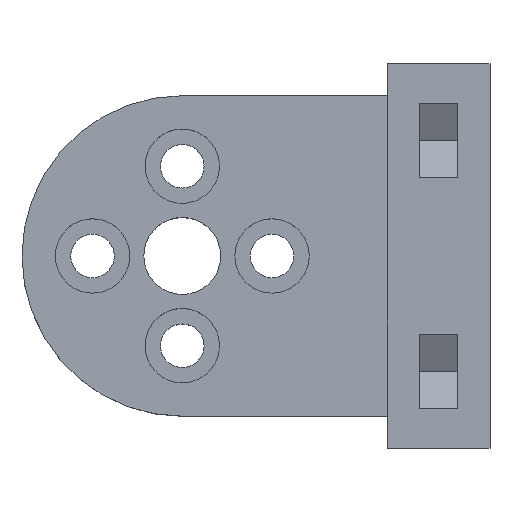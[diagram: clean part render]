
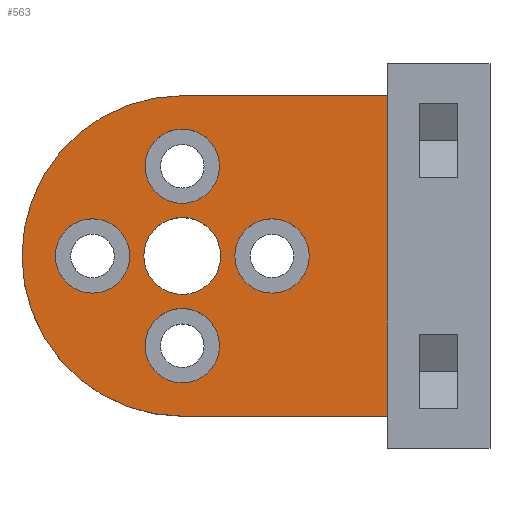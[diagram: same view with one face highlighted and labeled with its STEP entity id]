
A CAD part, top view. The second image highlights one B-rep face of the part: STEP entity #563.
In plain terms, the highlighted planar face has unit normal (0, 0, 1).
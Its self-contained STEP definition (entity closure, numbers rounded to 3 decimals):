
#62 = PLANE('',#63);
#63 = AXIS2_PLACEMENT_3D('',#64,#65,#66);
#64 = CARTESIAN_POINT('',(0.,12.5,0.));
#65 = DIRECTION('',(-0.,1.,0.));
#66 = DIRECTION('',(0.,0.,1.));
#91 = CYLINDRICAL_SURFACE('',#92,12.5);
#92 = AXIS2_PLACEMENT_3D('',#93,#94,#95);
#93 = CARTESIAN_POINT('',(0.,0.,0.));
#94 = DIRECTION('',(0.,0.,1.));
#95 = DIRECTION('',(1.,0.,-0.));
#119 = PLANE('',#120);
#120 = AXIS2_PLACEMENT_3D('',#121,#122,#123);
#121 = CARTESIAN_POINT('',(0.,-12.5,0.));
#122 = DIRECTION('',(-0.,1.,0.));
#123 = DIRECTION('',(0.,0.,1.));
#147 = PLANE('',#148);
#148 = AXIS2_PLACEMENT_3D('',#149,#150,#151);
#149 = CARTESIAN_POINT('',(16.,-15.,0.));
#150 = DIRECTION('',(1.,0.,-0.));
#151 = DIRECTION('',(0.,0.,1.));
#345 = CYLINDRICAL_SURFACE('',#346,3.);
#346 = AXIS2_PLACEMENT_3D('',#347,#348,#349);
#347 = CARTESIAN_POINT('',(0.,0.,-0.4));
#348 = DIRECTION('',(0.,0.,1.));
#349 = DIRECTION('',(1.,0.,-0.));
#494 = CYLINDRICAL_SURFACE('',#495,2.9);
#495 = AXIS2_PLACEMENT_3D('',#496,#497,#498);
#496 = CARTESIAN_POINT('',(0.,7.,4.));
#497 = DIRECTION('',(0.,0.,1.));
#498 = DIRECTION('',(1.,0.,-0.));
#512 = EDGE_CURVE('',#513,#513,#515,.T.);
#513 = VERTEX_POINT('',#514);
#514 = CARTESIAN_POINT('',(2.9,7.,7.));
#515 = SURFACE_CURVE('',#516,(#521,#528),.PCURVE_S1.);
#516 = CIRCLE('',#517,2.9);
#517 = AXIS2_PLACEMENT_3D('',#518,#519,#520);
#518 = CARTESIAN_POINT('',(0.,7.,7.));
#519 = DIRECTION('',(0.,0.,1.));
#520 = DIRECTION('',(1.,0.,-0.));
#521 = PCURVE('',#494,#522);
#522 = DEFINITIONAL_REPRESENTATION('',(#523),#527);
#523 = LINE('',#524,#525);
#524 = CARTESIAN_POINT('',(0.,3.));
#525 = VECTOR('',#526,1.);
#526 = DIRECTION('',(1.,0.));
#527 = ( GEOMETRIC_REPRESENTATION_CONTEXT(2) 
PARAMETRIC_REPRESENTATION_CONTEXT() REPRESENTATION_CONTEXT('2D SPACE',''
  ) );
#528 = PCURVE('',#529,#534);
#529 = PLANE('',#530);
#530 = AXIS2_PLACEMENT_3D('',#531,#532,#533);
#531 = CARTESIAN_POINT('',(0.,-12.5,7.));
#532 = DIRECTION('',(0.,0.,1.));
#533 = DIRECTION('',(1.,0.,-0.));
#534 = DEFINITIONAL_REPRESENTATION('',(#535),#539);
#535 = CIRCLE('',#536,2.9);
#536 = AXIS2_PLACEMENT_2D('',#537,#538);
#537 = CARTESIAN_POINT('',(0.,19.5));
#538 = DIRECTION('',(1.,0.));
#539 = ( GEOMETRIC_REPRESENTATION_CONTEXT(2) 
PARAMETRIC_REPRESENTATION_CONTEXT() REPRESENTATION_CONTEXT('2D SPACE',''
  ) );
#563 = ADVANCED_FACE('',(#564,#658,#689,#720,#746,#777),#529,.T.);
#564 = FACE_BOUND('',#565,.T.);
#565 = EDGE_LOOP('',(#566,#591,#615,#638));
#566 = ORIENTED_EDGE('',*,*,#567,.F.);
#567 = EDGE_CURVE('',#568,#570,#572,.T.);
#568 = VERTEX_POINT('',#569);
#569 = CARTESIAN_POINT('',(0.,12.5,7.));
#570 = VERTEX_POINT('',#571);
#571 = CARTESIAN_POINT('',(16.,12.5,7.));
#572 = SURFACE_CURVE('',#573,(#577,#584),.PCURVE_S1.);
#573 = LINE('',#574,#575);
#574 = CARTESIAN_POINT('',(0.,12.5,7.));
#575 = VECTOR('',#576,1.);
#576 = DIRECTION('',(1.,0.,-0.));
#577 = PCURVE('',#529,#578);
#578 = DEFINITIONAL_REPRESENTATION('',(#579),#583);
#579 = LINE('',#580,#581);
#580 = CARTESIAN_POINT('',(0.,25.));
#581 = VECTOR('',#582,1.);
#582 = DIRECTION('',(1.,0.));
#583 = ( GEOMETRIC_REPRESENTATION_CONTEXT(2) 
PARAMETRIC_REPRESENTATION_CONTEXT() REPRESENTATION_CONTEXT('2D SPACE',''
  ) );
#584 = PCURVE('',#62,#585);
#585 = DEFINITIONAL_REPRESENTATION('',(#586),#590);
#586 = LINE('',#587,#588);
#587 = CARTESIAN_POINT('',(7.,0.));
#588 = VECTOR('',#589,1.);
#589 = DIRECTION('',(0.,1.));
#590 = ( GEOMETRIC_REPRESENTATION_CONTEXT(2) 
PARAMETRIC_REPRESENTATION_CONTEXT() REPRESENTATION_CONTEXT('2D SPACE',''
  ) );
#591 = ORIENTED_EDGE('',*,*,#592,.T.);
#592 = EDGE_CURVE('',#568,#593,#595,.T.);
#593 = VERTEX_POINT('',#594);
#594 = CARTESIAN_POINT('',(0.,-12.5,7.));
#595 = SURFACE_CURVE('',#596,(#601,#608),.PCURVE_S1.);
#596 = CIRCLE('',#597,12.5);
#597 = AXIS2_PLACEMENT_3D('',#598,#599,#600);
#598 = CARTESIAN_POINT('',(0.,0.,7.));
#599 = DIRECTION('',(0.,0.,1.));
#600 = DIRECTION('',(1.,0.,-0.));
#601 = PCURVE('',#529,#602);
#602 = DEFINITIONAL_REPRESENTATION('',(#603),#607);
#603 = CIRCLE('',#604,12.5);
#604 = AXIS2_PLACEMENT_2D('',#605,#606);
#605 = CARTESIAN_POINT('',(0.,12.5));
#606 = DIRECTION('',(1.,0.));
#607 = ( GEOMETRIC_REPRESENTATION_CONTEXT(2) 
PARAMETRIC_REPRESENTATION_CONTEXT() REPRESENTATION_CONTEXT('2D SPACE',''
  ) );
#608 = PCURVE('',#91,#609);
#609 = DEFINITIONAL_REPRESENTATION('',(#610),#614);
#610 = LINE('',#611,#612);
#611 = CARTESIAN_POINT('',(0.,7.));
#612 = VECTOR('',#613,1.);
#613 = DIRECTION('',(1.,0.));
#614 = ( GEOMETRIC_REPRESENTATION_CONTEXT(2) 
PARAMETRIC_REPRESENTATION_CONTEXT() REPRESENTATION_CONTEXT('2D SPACE',''
  ) );
#615 = ORIENTED_EDGE('',*,*,#616,.T.);
#616 = EDGE_CURVE('',#593,#617,#619,.T.);
#617 = VERTEX_POINT('',#618);
#618 = CARTESIAN_POINT('',(16.,-12.5,7.));
#619 = SURFACE_CURVE('',#620,(#624,#631),.PCURVE_S1.);
#620 = LINE('',#621,#622);
#621 = CARTESIAN_POINT('',(0.,-12.5,7.));
#622 = VECTOR('',#623,1.);
#623 = DIRECTION('',(1.,0.,-0.));
#624 = PCURVE('',#529,#625);
#625 = DEFINITIONAL_REPRESENTATION('',(#626),#630);
#626 = LINE('',#627,#628);
#627 = CARTESIAN_POINT('',(0.,0.));
#628 = VECTOR('',#629,1.);
#629 = DIRECTION('',(1.,0.));
#630 = ( GEOMETRIC_REPRESENTATION_CONTEXT(2) 
PARAMETRIC_REPRESENTATION_CONTEXT() REPRESENTATION_CONTEXT('2D SPACE',''
  ) );
#631 = PCURVE('',#119,#632);
#632 = DEFINITIONAL_REPRESENTATION('',(#633),#637);
#633 = LINE('',#634,#635);
#634 = CARTESIAN_POINT('',(7.,0.));
#635 = VECTOR('',#636,1.);
#636 = DIRECTION('',(0.,1.));
#637 = ( GEOMETRIC_REPRESENTATION_CONTEXT(2) 
PARAMETRIC_REPRESENTATION_CONTEXT() REPRESENTATION_CONTEXT('2D SPACE',''
  ) );
#638 = ORIENTED_EDGE('',*,*,#639,.T.);
#639 = EDGE_CURVE('',#617,#570,#640,.T.);
#640 = SURFACE_CURVE('',#641,(#645,#652),.PCURVE_S1.);
#641 = LINE('',#642,#643);
#642 = CARTESIAN_POINT('',(16.,-13.75,7.));
#643 = VECTOR('',#644,1.);
#644 = DIRECTION('',(-0.,1.,0.));
#645 = PCURVE('',#529,#646);
#646 = DEFINITIONAL_REPRESENTATION('',(#647),#651);
#647 = LINE('',#648,#649);
#648 = CARTESIAN_POINT('',(16.,-1.25));
#649 = VECTOR('',#650,1.);
#650 = DIRECTION('',(0.,1.));
#651 = ( GEOMETRIC_REPRESENTATION_CONTEXT(2) 
PARAMETRIC_REPRESENTATION_CONTEXT() REPRESENTATION_CONTEXT('2D SPACE',''
  ) );
#652 = PCURVE('',#147,#653);
#653 = DEFINITIONAL_REPRESENTATION('',(#654),#657);
#654 = B_SPLINE_CURVE_WITH_KNOTS('',1,(#655,#656),.UNSPECIFIED.,.F.,.F.,
  (2,2),(1.25,26.25),.PIECEWISE_BEZIER_KNOTS.);
#655 = CARTESIAN_POINT('',(7.,-2.5));
#656 = CARTESIAN_POINT('',(7.,-27.5));
#657 = ( GEOMETRIC_REPRESENTATION_CONTEXT(2) 
PARAMETRIC_REPRESENTATION_CONTEXT() REPRESENTATION_CONTEXT('2D SPACE',''
  ) );
#658 = FACE_BOUND('',#659,.T.);
#659 = EDGE_LOOP('',(#660));
#660 = ORIENTED_EDGE('',*,*,#661,.F.);
#661 = EDGE_CURVE('',#662,#662,#664,.T.);
#662 = VERTEX_POINT('',#663);
#663 = CARTESIAN_POINT('',(2.9,-7.,7.));
#664 = SURFACE_CURVE('',#665,(#670,#677),.PCURVE_S1.);
#665 = CIRCLE('',#666,2.9);
#666 = AXIS2_PLACEMENT_3D('',#667,#668,#669);
#667 = CARTESIAN_POINT('',(0.,-7.,7.));
#668 = DIRECTION('',(0.,0.,1.));
#669 = DIRECTION('',(1.,0.,-0.));
#670 = PCURVE('',#529,#671);
#671 = DEFINITIONAL_REPRESENTATION('',(#672),#676);
#672 = CIRCLE('',#673,2.9);
#673 = AXIS2_PLACEMENT_2D('',#674,#675);
#674 = CARTESIAN_POINT('',(0.,5.5));
#675 = DIRECTION('',(1.,0.));
#676 = ( GEOMETRIC_REPRESENTATION_CONTEXT(2) 
PARAMETRIC_REPRESENTATION_CONTEXT() REPRESENTATION_CONTEXT('2D SPACE',''
  ) );
#677 = PCURVE('',#678,#683);
#678 = CYLINDRICAL_SURFACE('',#679,2.9);
#679 = AXIS2_PLACEMENT_3D('',#680,#681,#682);
#680 = CARTESIAN_POINT('',(0.,-7.,4.));
#681 = DIRECTION('',(0.,0.,1.));
#682 = DIRECTION('',(1.,0.,-0.));
#683 = DEFINITIONAL_REPRESENTATION('',(#684),#688);
#684 = LINE('',#685,#686);
#685 = CARTESIAN_POINT('',(0.,3.));
#686 = VECTOR('',#687,1.);
#687 = DIRECTION('',(1.,0.));
#688 = ( GEOMETRIC_REPRESENTATION_CONTEXT(2) 
PARAMETRIC_REPRESENTATION_CONTEXT() REPRESENTATION_CONTEXT('2D SPACE',''
  ) );
#689 = FACE_BOUND('',#690,.T.);
#690 = EDGE_LOOP('',(#691));
#691 = ORIENTED_EDGE('',*,*,#692,.F.);
#692 = EDGE_CURVE('',#693,#693,#695,.T.);
#693 = VERTEX_POINT('',#694);
#694 = CARTESIAN_POINT('',(-4.1,0.,7.));
#695 = SURFACE_CURVE('',#696,(#701,#708),.PCURVE_S1.);
#696 = CIRCLE('',#697,2.9);
#697 = AXIS2_PLACEMENT_3D('',#698,#699,#700);
#698 = CARTESIAN_POINT('',(-7.,0.,7.));
#699 = DIRECTION('',(0.,0.,1.));
#700 = DIRECTION('',(1.,0.,-0.));
#701 = PCURVE('',#529,#702);
#702 = DEFINITIONAL_REPRESENTATION('',(#703),#707);
#703 = CIRCLE('',#704,2.9);
#704 = AXIS2_PLACEMENT_2D('',#705,#706);
#705 = CARTESIAN_POINT('',(-7.,12.5));
#706 = DIRECTION('',(1.,0.));
#707 = ( GEOMETRIC_REPRESENTATION_CONTEXT(2) 
PARAMETRIC_REPRESENTATION_CONTEXT() REPRESENTATION_CONTEXT('2D SPACE',''
  ) );
#708 = PCURVE('',#709,#714);
#709 = CYLINDRICAL_SURFACE('',#710,2.9);
#710 = AXIS2_PLACEMENT_3D('',#711,#712,#713);
#711 = CARTESIAN_POINT('',(-7.,0.,4.));
#712 = DIRECTION('',(0.,0.,1.));
#713 = DIRECTION('',(1.,0.,-0.));
#714 = DEFINITIONAL_REPRESENTATION('',(#715),#719);
#715 = LINE('',#716,#717);
#716 = CARTESIAN_POINT('',(0.,3.));
#717 = VECTOR('',#718,1.);
#718 = DIRECTION('',(1.,0.));
#719 = ( GEOMETRIC_REPRESENTATION_CONTEXT(2) 
PARAMETRIC_REPRESENTATION_CONTEXT() REPRESENTATION_CONTEXT('2D SPACE',''
  ) );
#720 = FACE_BOUND('',#721,.T.);
#721 = EDGE_LOOP('',(#722));
#722 = ORIENTED_EDGE('',*,*,#723,.F.);
#723 = EDGE_CURVE('',#724,#724,#726,.T.);
#724 = VERTEX_POINT('',#725);
#725 = CARTESIAN_POINT('',(3.,0.,7.));
#726 = SURFACE_CURVE('',#727,(#732,#739),.PCURVE_S1.);
#727 = CIRCLE('',#728,3.);
#728 = AXIS2_PLACEMENT_3D('',#729,#730,#731);
#729 = CARTESIAN_POINT('',(0.,0.,7.));
#730 = DIRECTION('',(0.,0.,1.));
#731 = DIRECTION('',(1.,0.,-0.));
#732 = PCURVE('',#529,#733);
#733 = DEFINITIONAL_REPRESENTATION('',(#734),#738);
#734 = CIRCLE('',#735,3.);
#735 = AXIS2_PLACEMENT_2D('',#736,#737);
#736 = CARTESIAN_POINT('',(0.,12.5));
#737 = DIRECTION('',(1.,0.));
#738 = ( GEOMETRIC_REPRESENTATION_CONTEXT(2) 
PARAMETRIC_REPRESENTATION_CONTEXT() REPRESENTATION_CONTEXT('2D SPACE',''
  ) );
#739 = PCURVE('',#345,#740);
#740 = DEFINITIONAL_REPRESENTATION('',(#741),#745);
#741 = LINE('',#742,#743);
#742 = CARTESIAN_POINT('',(0.,7.4));
#743 = VECTOR('',#744,1.);
#744 = DIRECTION('',(1.,0.));
#745 = ( GEOMETRIC_REPRESENTATION_CONTEXT(2) 
PARAMETRIC_REPRESENTATION_CONTEXT() REPRESENTATION_CONTEXT('2D SPACE',''
  ) );
#746 = FACE_BOUND('',#747,.T.);
#747 = EDGE_LOOP('',(#748));
#748 = ORIENTED_EDGE('',*,*,#749,.F.);
#749 = EDGE_CURVE('',#750,#750,#752,.T.);
#750 = VERTEX_POINT('',#751);
#751 = CARTESIAN_POINT('',(9.9,0.,7.));
#752 = SURFACE_CURVE('',#753,(#758,#765),.PCURVE_S1.);
#753 = CIRCLE('',#754,2.9);
#754 = AXIS2_PLACEMENT_3D('',#755,#756,#757);
#755 = CARTESIAN_POINT('',(7.,0.,7.));
#756 = DIRECTION('',(0.,0.,1.));
#757 = DIRECTION('',(1.,0.,-0.));
#758 = PCURVE('',#529,#759);
#759 = DEFINITIONAL_REPRESENTATION('',(#760),#764);
#760 = CIRCLE('',#761,2.9);
#761 = AXIS2_PLACEMENT_2D('',#762,#763);
#762 = CARTESIAN_POINT('',(7.,12.5));
#763 = DIRECTION('',(1.,0.));
#764 = ( GEOMETRIC_REPRESENTATION_CONTEXT(2) 
PARAMETRIC_REPRESENTATION_CONTEXT() REPRESENTATION_CONTEXT('2D SPACE',''
  ) );
#765 = PCURVE('',#766,#771);
#766 = CYLINDRICAL_SURFACE('',#767,2.9);
#767 = AXIS2_PLACEMENT_3D('',#768,#769,#770);
#768 = CARTESIAN_POINT('',(7.,0.,4.));
#769 = DIRECTION('',(0.,0.,1.));
#770 = DIRECTION('',(1.,0.,-0.));
#771 = DEFINITIONAL_REPRESENTATION('',(#772),#776);
#772 = LINE('',#773,#774);
#773 = CARTESIAN_POINT('',(0.,3.));
#774 = VECTOR('',#775,1.);
#775 = DIRECTION('',(1.,0.));
#776 = ( GEOMETRIC_REPRESENTATION_CONTEXT(2) 
PARAMETRIC_REPRESENTATION_CONTEXT() REPRESENTATION_CONTEXT('2D SPACE',''
  ) );
#777 = FACE_BOUND('',#778,.T.);
#778 = EDGE_LOOP('',(#779));
#779 = ORIENTED_EDGE('',*,*,#512,.F.);
